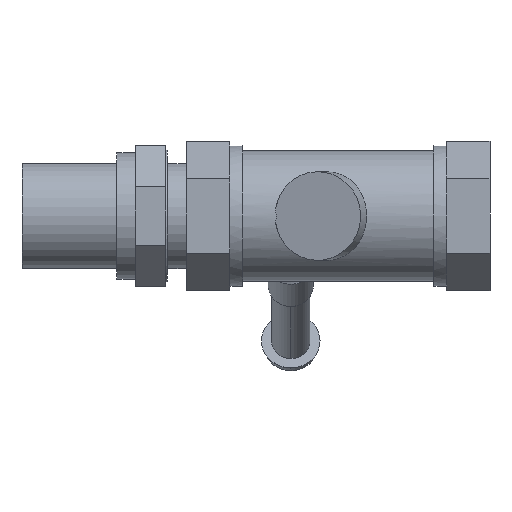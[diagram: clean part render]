
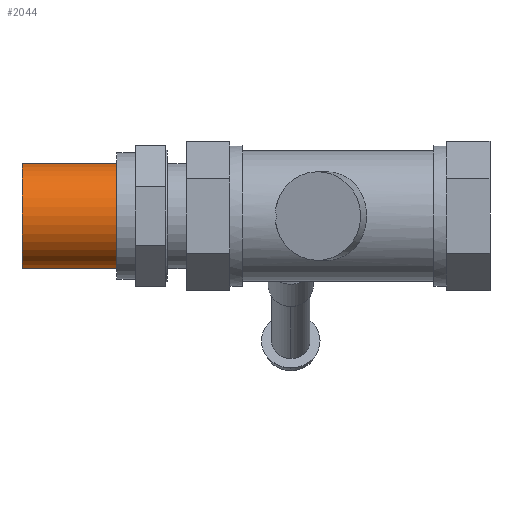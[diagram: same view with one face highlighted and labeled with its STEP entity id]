
A CAD part, front view. The second image highlights one B-rep face of the part: STEP entity #2044.
In plain terms, the highlighted cylindrical face has radius 21.082 mm (diameter 42.164 mm), a full revolution.
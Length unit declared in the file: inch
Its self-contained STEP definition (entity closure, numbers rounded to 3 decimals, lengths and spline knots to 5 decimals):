
#182=CYLINDRICAL_SURFACE('',#2289,0.83);
#282=FACE_OUTER_BOUND('',#404,.T.);
#404=EDGE_LOOP('',(#1741,#1742,#1743,#1744,#1745,#1746));
#520=CIRCLE('',#2281,0.83);
#521=CIRCLE('',#2282,0.83);
#526=CIRCLE('',#2290,0.83);
#527=CIRCLE('',#2291,0.83);
#646=LINE('',#3670,#783);
#783=VECTOR('',#2860,0.83);
#959=VERTEX_POINT('',#3651);
#960=VERTEX_POINT('',#3652);
#965=VERTEX_POINT('',#3667);
#966=VERTEX_POINT('',#3668);
#1223=EDGE_CURVE('',#959,#960,#520,.T.);
#1224=EDGE_CURVE('',#960,#959,#521,.T.);
#1230=EDGE_CURVE('',#965,#966,#526,.T.);
#1231=EDGE_CURVE('',#966,#960,#646,.T.);
#1232=EDGE_CURVE('',#966,#965,#527,.T.);
#1741=ORIENTED_EDGE('',*,*,#1230,.T.);
#1742=ORIENTED_EDGE('',*,*,#1231,.T.);
#1743=ORIENTED_EDGE('',*,*,#1224,.T.);
#1744=ORIENTED_EDGE('',*,*,#1223,.T.);
#1745=ORIENTED_EDGE('',*,*,#1231,.F.);
#1746=ORIENTED_EDGE('',*,*,#1232,.T.);
#2044=ADVANCED_FACE('',(#282),#182,.T.);
#2281=AXIS2_PLACEMENT_3D('',#3653,#2839,#2840);
#2282=AXIS2_PLACEMENT_3D('',#3654,#2841,#2842);
#2289=AXIS2_PLACEMENT_3D('',#3666,#2856,#2857);
#2290=AXIS2_PLACEMENT_3D('',#3669,#2858,#2859);
#2291=AXIS2_PLACEMENT_3D('',#3671,#2861,#2862);
#2839=DIRECTION('center_axis',(1.,0.,0.));
#2840=DIRECTION('ref_axis',(0.,0.,-1.));
#2841=DIRECTION('center_axis',(1.,0.,0.));
#2842=DIRECTION('ref_axis',(0.,0.,-1.));
#2856=DIRECTION('center_axis',(1.,0.,0.));
#2857=DIRECTION('ref_axis',(0.,1.,0.));
#2858=DIRECTION('center_axis',(-1.,0.,0.));
#2859=DIRECTION('ref_axis',(0.,1.,0.));
#2860=DIRECTION('',(-1.,0.,0.));
#2861=DIRECTION('center_axis',(-1.,0.,0.));
#2862=DIRECTION('ref_axis',(0.,1.,0.));
#3651=CARTESIAN_POINT('',(-5.,0.83,0.));
#3652=CARTESIAN_POINT('',(-5.,-0.83,0.));
#3653=CARTESIAN_POINT('Origin',(-5.,0.,0.));
#3654=CARTESIAN_POINT('Origin',(-5.,0.,0.));
#3666=CARTESIAN_POINT('Origin',(-3.35625,0.,0.));
#3667=CARTESIAN_POINT('',(-3.5,0.83,0.));
#3668=CARTESIAN_POINT('',(-3.5,-0.83,0.));
#3669=CARTESIAN_POINT('Origin',(-3.5,0.,0.));
#3670=CARTESIAN_POINT('',(-3.35625,-0.83,0.));
#3671=CARTESIAN_POINT('Origin',(-3.5,0.,0.));
